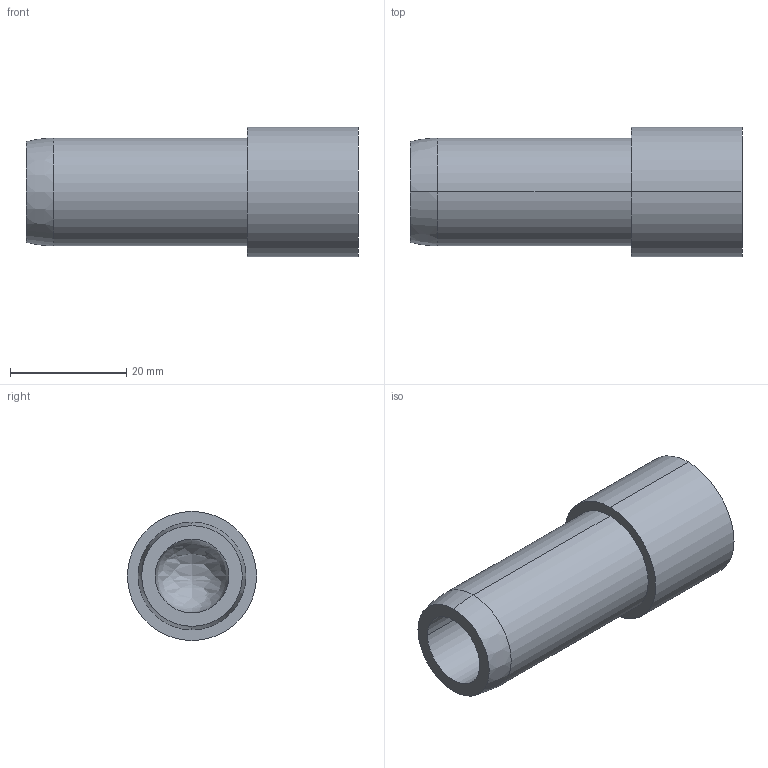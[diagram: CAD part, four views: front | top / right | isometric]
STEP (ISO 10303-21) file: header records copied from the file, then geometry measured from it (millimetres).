
FILE_DESCRIPTION (( 'STEP AP203' ), '1' );
FILE_NAME ('FDPCK-MODCON.75-END-BLNK.step', '2019-09-11T18:33:27', ( 'ydmin' ), ( '' ), 'SwSTEP 2.0', 'SolidWorks 2017', '' );
FILE_SCHEMA (( 'CONFIG_CONTROL_DESIGN' ));
Length unit declared in the file: inch
Products named in the file (1): FDPCK-MODCON.75-END-BLNK
Bounding box: 57.15 x 22.23 x 22.23 mm (x, y, z)
Volume: 13063.5 mm3; surface area: 5683.7 mm2
Topology: 1 solids, 1 shells, 14 faces, 32 edges, 19 vertices
Faces by surface type: cylinder 6, bspline 3, plane 3, cone 2
Entity records: 492 total; most frequent: CARTESIAN_POINT 107, DIRECTION 72, ORIENTED_EDGE 56, AXIS2_PLACEMENT_3D 32, EDGE_CURVE 28, CIRCLE 20, VERTEX_POINT 19, EDGE_LOOP 17
